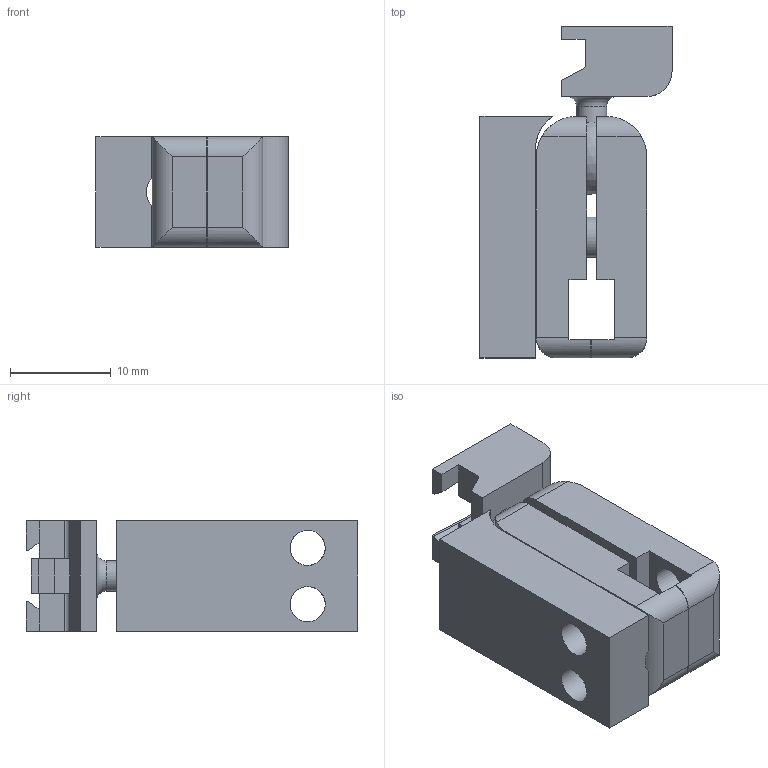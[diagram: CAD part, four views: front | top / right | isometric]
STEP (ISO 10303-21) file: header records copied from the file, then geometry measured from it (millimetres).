
FILE_DESCRIPTION( ( 'STEP AP203' ), ' ' );
FILE_NAME( 'p:/temp/worker_781/2496_5780/app_42_02017110912404276665203192d056f_000000_00_00_000000/format_2/E20974.stp', '2017-11-09T11:40:44', ( '' ), ( '' ), ' ', 'PARTsolutions', ' ' );
FILE_SCHEMA( ( 'CONFIG_CONTROL_DESIGN' ) );
Length unit declared in the file: millimetre
Products named in the file (6): E20974; _E20974_part1; _E20974_part2; _E20974_part3; _E20974_part5; _E20974_part4
Assembly tree (5 placements, depth 2):
  E20974
    _E20974_part1
    _E20974_part2
    _E20974_part3
    _E20974_part5
    _E20974_part4
Bounding box: 19.1 x 33 x 11 mm (x, y, z)
Volume: 4074.8 mm3; surface area: 3964 mm2
Topology: 5 solids, 5 shells, 114 faces, 299 edges, 196 vertices
Faces by surface type: plane 75, cylinder 34, sphere 3, torus 1, cone 1
Full cylindrical faces by diameter (mm): 3 x1, 3.242 x2, 3.5 x6, 4 x1, 7 x1, 8 x1
Entity records: 3659 total; most frequent: CARTESIAN_POINT 683, DIRECTION 578, ORIENTED_EDGE 552, EDGE_CURVE 276, LINE 198, VECTOR 198, AXIS2_PLACEMENT_3D 190, VERTEX_POINT 189
